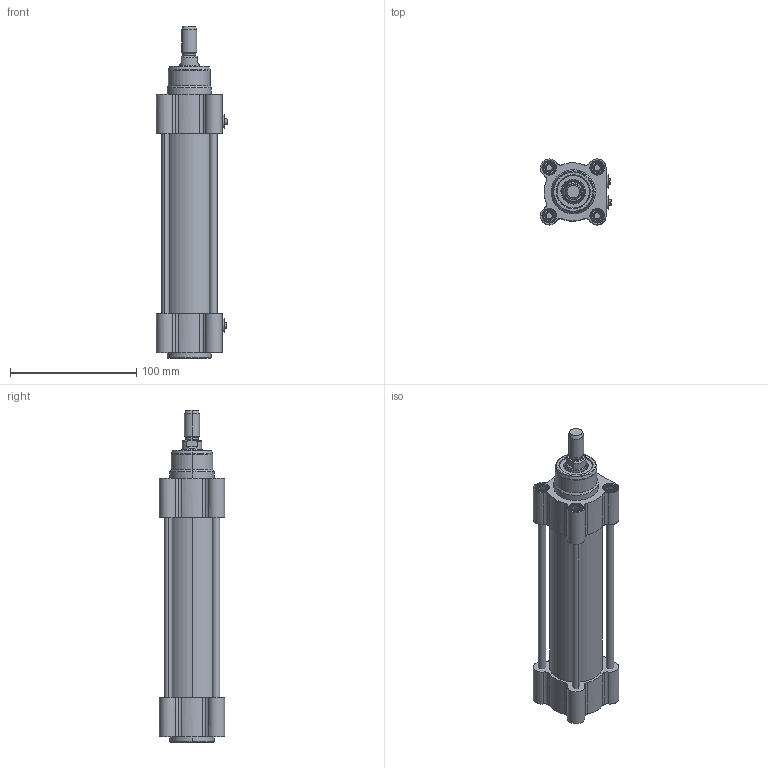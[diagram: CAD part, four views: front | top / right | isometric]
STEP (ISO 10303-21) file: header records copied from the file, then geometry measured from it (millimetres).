
FILE_DESCRIPTION (( 'STEP AP203' ), '1' );
FILE_NAME ('CTMI40-100.STEP', '2020-03-26T19:11:20', ( '' ), ( '' ), 'SwSTEP 2.0', 'SolidWorks 2019', '' );
FILE_SCHEMA (( 'CONFIG_CONTROL_DESIGN' ));
Length unit declared in the file: millimetre
Products named in the file (1): CTMI40-100
Bounding box: 56.39 x 52 x 263 mm (x, y, z)
Surface area: 107073.6 mm2 (no closed solid volume)
Topology: 0 solids, 24 shells, 689 faces, 1578 edges, 970 vertices
Faces by surface type: cylinder 201, cone 195, plane 193, torus 84, bspline 16
Entity records: 29688 total; most frequent: CARTESIAN_POINT 16244, ORIENTED_EDGE 3112, DIRECTION 2051, EDGE_CURVE 1578, B_SPLINE_CURVE_WITH_KNOTS 995, VERTEX_POINT 970, AXIS2_PLACEMENT_3D 842, EDGE_LOOP 764
